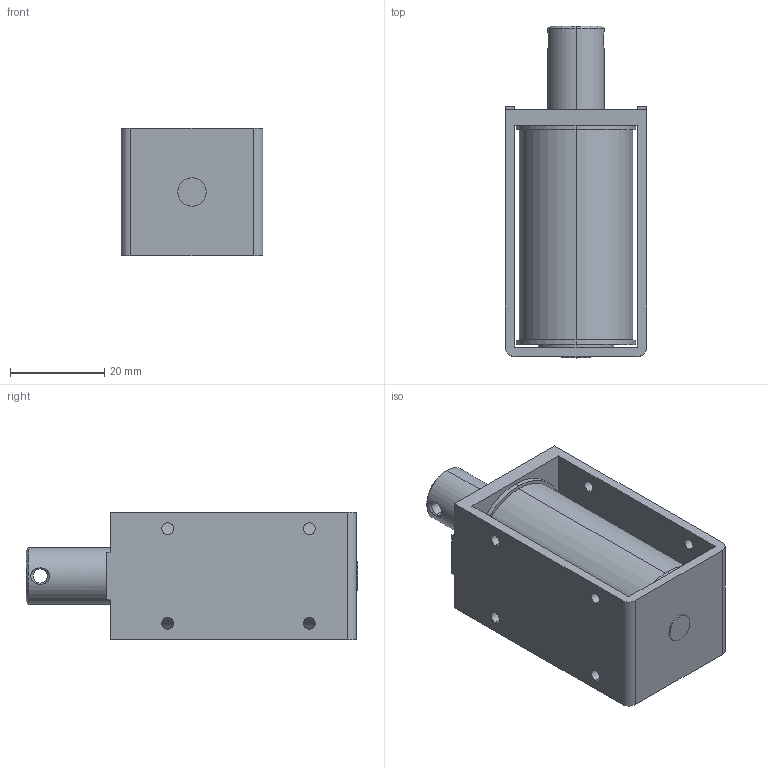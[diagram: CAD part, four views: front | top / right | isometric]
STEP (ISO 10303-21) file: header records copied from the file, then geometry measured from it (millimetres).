
FILE_DESCRIPTION (( 'STEP AP203' ), '1' );
FILE_NAME ('w_ce1253.STEP', '2014-07-24T04:19:59', ( 'jiba' ), ( 'Hewlett-Packard Company' ), 'SwSTEP 2.0', 'SolidWorks 2014', '' );
FILE_SCHEMA (( 'CONFIG_CONTROL_DESIGN' ));
Length unit declared in the file: millimetre
Products named in the file (3): w_21253037; w_ce1253; Part5^w_ce1253
Assembly tree (2 placements, depth 2):
  w_ce1253
    Part5^w_ce1253
    w_21253037
Bounding box: 30 x 70.3 x 27 mm (x, y, z)
Volume: 32275.3 mm3; surface area: 16251.3 mm2
Topology: 2 solids, 2 shells, 74 faces, 180 edges, 118 vertices
Faces by surface type: cylinder 40, plane 28, cone 6
Entity records: 2623 total; most frequent: CARTESIAN_POINT 461, DIRECTION 416, ORIENTED_EDGE 360, EDGE_CURVE 180, AXIS2_PLACEMENT_3D 161, VERTEX_POINT 118, EDGE_LOOP 104, VECTOR 94
